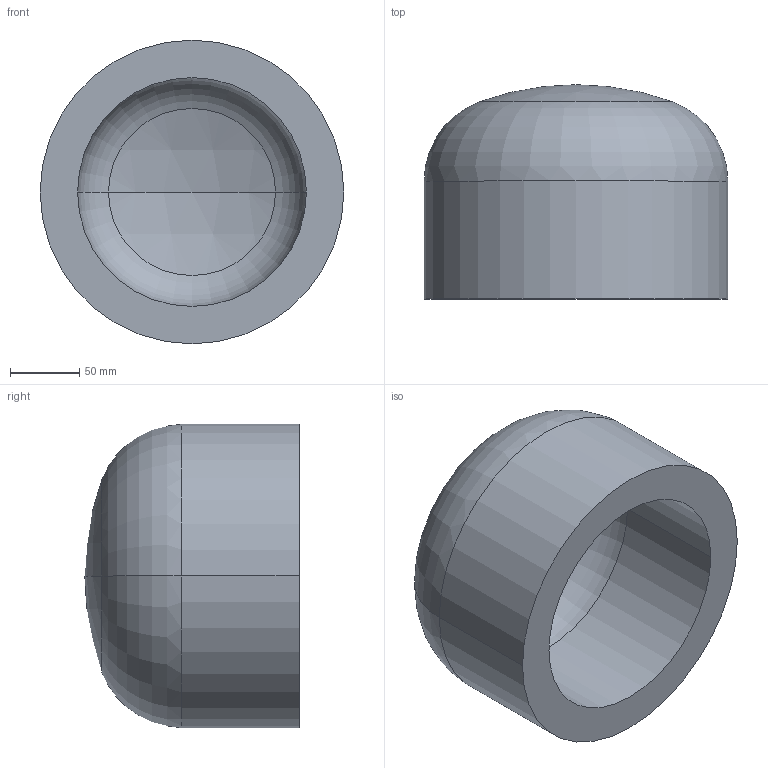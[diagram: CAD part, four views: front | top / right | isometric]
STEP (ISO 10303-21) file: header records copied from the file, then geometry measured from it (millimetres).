
FILE_DESCRIPTION (( 'STEP AP203' ), '1' );
FILE_NAME ('DIN 28013 Korbbogenform_-_Boden DIN 28013 - 219,1 x 85 - I - s=27.step', '2016-07-01T07:42:48', ( '' ), ( '' ), 'SwSTEP 2.0', 'SolidWorks 2013', '' );
FILE_SCHEMA (( 'CONFIG_CONTROL_DESIGN' ));
Length unit declared in the file: millimetre
Products named in the file (1): DIN 28013 Korbbogenform_-_Boden DIN 28013 - 219,1 x 85 - I - s=27
Bounding box: 219.1 x 154.62 x 219.1 mm (x, y, z)
Volume: 2600312.8 mm3; surface area: 210437.1 mm2
Topology: 1 solids, 1 shells, 13 faces, 24 edges, 14 vertices
Faces by surface type: torus 4, cylinder 4, sphere 4, plane 1
Entity records: 407 total; most frequent: DIRECTION 72, CARTESIAN_POINT 52, ORIENTED_EDGE 48, AXIS2_PLACEMENT_3D 34, EDGE_CURVE 24, CIRCLE 20, EDGE_LOOP 14, VERTEX_POINT 14
